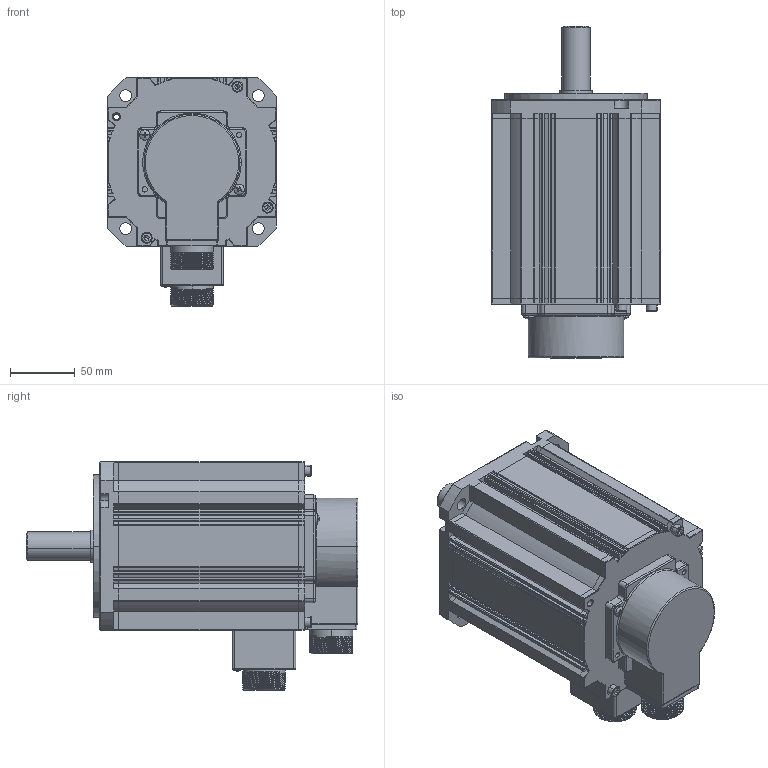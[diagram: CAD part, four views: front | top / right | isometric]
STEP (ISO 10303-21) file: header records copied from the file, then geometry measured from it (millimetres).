
FILE_DESCRIPTION (( 'STEP AP203' ), '1' );
FILE_NAME ('WF130ST-M14320-3D.STEP', '2022-05-18T09:18:02', ( '' ), ( '' ), 'SwSTEP 2.0', 'SolidWorks 2018', '' );
FILE_SCHEMA (( 'CONFIG_CONTROL_DESIGN' ));
Length unit declared in the file: millimetre
Products named in the file (17): 脣釱1; 脣釱2; deep groove ball bearings gb_Rolling bearings 6205 GB 276-94; 粣; 綴傷裔; hexagon socket head cap screws gb_GB_FASTENER_SCREWS_HSHCS M5X20-N; 晤鎢欶裔; jike; ヶ傷裔; 瑤脣裔; cross recessed pan head screws gb_GB_CROSS_SCREWS_TYPE1 M3X12-12  H type-N; 蛌赽軞傖; 瑤脣窒煦; WF130ST-M14320-3D; cross recessed pan head screws gb_GB_CROSS_SCREWS_TYPE1 M4X12-12  H type-N; deep groove ball bearings gb_Rolling bearings 6204 GB 276-94; 盓傅啣
Assembly tree (22 placements, depth 3):
  WF130ST-M14320-3D
    jike
    瑤脣窒煦
      瑤脣裔
      脣釱1
      盓傅啣
    ヶ傷裔
    綴傷裔
    晤鎢欶裔
    hexagon socket head cap screws gb_GB_FASTENER_SCREWS_HSHCS M5X20-N  x4
    cross recessed pan head screws gb_GB_CROSS_SCREWS_TYPE1 M4X12-12  H type-N  x2
    cross recessed pan head screws gb_GB_CROSS_SCREWS_TYPE1 M3X12-12  H type-N
    蛌赽軞傖
      粣
      deep groove ball bearings gb_Rolling bearings 6205 GB 276-94  x2
      deep groove ball bearings gb_Rolling bearings 6204 GB 276-94  x2
    脣釱2
Bounding box: 130 x 256 x 176 mm (x, y, z)
Volume: 965662.4 mm3; surface area: 393099 mm2
Topology: 20 solids, 20 shells, 2341 faces, 6816 edges, 4339 vertices
Faces by surface type: cylinder 945, plane 606, torus 484, sphere 148, bspline 116, cone 42
Entity records: 77845 total; most frequent: CARTESIAN_POINT 25731, ORIENTED_EDGE 10824, DIRECTION 10503, EDGE_CURVE 5412, AXIS2_PLACEMENT_3D 4216, VERTEX_POINT 3411, CIRCLE 2265, EDGE_LOOP 2207
